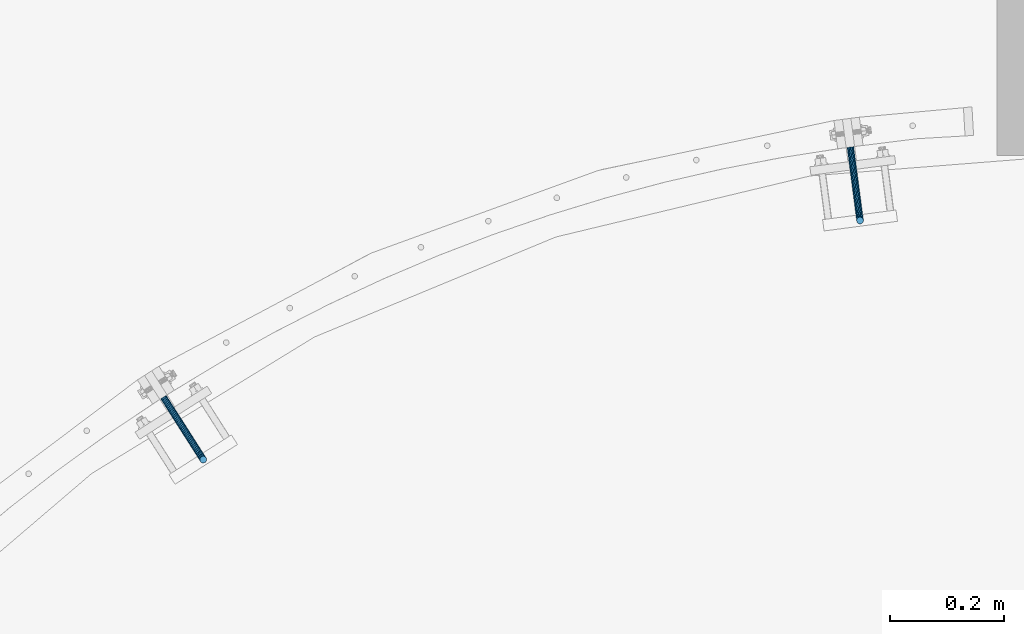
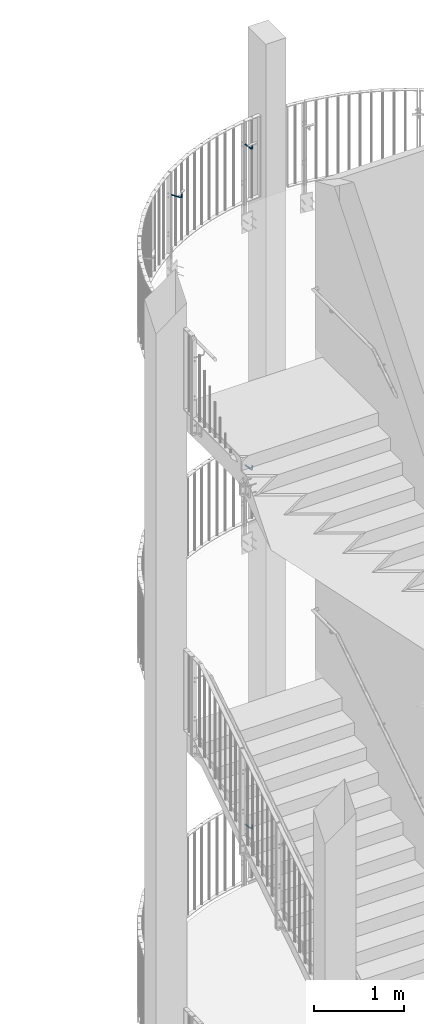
# One storey, part 141 of 296: 4 beams.
"""IFC2X3 building model written with IfcOpenShell, lengths in millimetres."""

from ifc_helpers import new_model, entity, si_unit, converted_unit, origin_with_axes, place, context, project, spatial, faceted_brep, material, element, save


model = new_model("IFC2X3")

# Units and contexts
model_context = context("Model", 3, precision=1e-09, world=origin_with_axes())
ifc_project = project(units=[si_unit("LENGTHUNIT", "METRE", prefix="MILLI"), si_unit("AREAUNIT", "SQUARE_METRE"), si_unit("VOLUMEUNIT", "CUBIC_METRE"), converted_unit("PLANEANGLEUNIT", "DEGREE", entity("IfcPlaneAngleMeasure", 0.01745329), si_unit("PLANEANGLEUNIT", "RADIAN"), dimensions=[0, 0, 0, 0, 0, 0, 0])], contexts=[model_context])

# Site, building, storey
site_placement = place(None, origin_with_axes())
site = spatial("IfcSite", under=ifc_project, at=site_placement, Name="TZD-S?d | Treppenhausgel?nder", CompositionType="ELEMENT")
building_placement = place(site_placement, origin_with_axes())
building = spatial("IfcBuilding", under=site, at=building_placement, Name="Struktur 1", CompositionType="ELEMENT")
storey_placement = place(building_placement, origin_with_axes())
storey = spatial("IfcBuildingStorey", under=building, at=storey_placement, Name="Default Storey", CompositionType="ELEMENT", Elevation=0.0)

# Beams
ifc_material = material(Name="S235JR")
beam_1_placement = place(None, origin_with_axes())
element("IfcBeam", 1, at=beam_1_placement, inside=storey, material=ifc_material, Name="-", ObjectType="-", context=model_context, shape_type="Brep", body=[
    faceted_brep([(2551.305676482, 2705.986061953, 8210.0), (2553.405330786, 2704.950627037, 8210.0), (2555.741402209, 2704.797512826, 8210.0), (2557.958245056, 2705.550029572, 8210.0), (2559.718365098, 2707.093613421, 8210.0), (2560.753800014, 2709.193267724, 8210.0), (2560.906914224, 2711.529339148, 8210.0), (2560.154397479, 2713.746181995, 8210.0), (2558.61081363, 2715.506302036, 8210.0), (2556.511159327, 2716.541736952, 8210.0), (2554.175087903, 2716.694851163, 8210.0), (2551.958245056, 2715.942334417, 8210.0), (2550.198125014, 2714.398750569, 8210.0), (2549.162690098, 2712.299096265, 8210.0), (2549.009575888, 2709.963024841, 8210.0), (2549.762092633, 2707.746181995, 8210.0), (2535.713382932, 2839.334312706, 8139.456722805), (2533.78349576, 2839.080238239, 8140.757359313), (2532.493986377, 2838.910471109, 8142.703899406), (2532.041170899, 2838.85085682, 8145.0), (2532.493986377, 2838.910471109, 8147.296100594), (2533.78349576, 2839.080238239, 8149.242640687), (2535.713382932, 2839.334312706, 8150.543277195), (2537.989840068, 2839.634013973, 8151.0), (2540.266297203, 2839.933715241, 8150.543277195), (2542.196184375, 2840.187789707, 8149.242640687), (2543.485693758, 2840.357556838, 8147.296100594), (2543.938509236, 2840.417171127, 8145.0), (2543.485693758, 2840.357556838, 8142.703899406), (2542.196184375, 2840.187789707, 8140.757359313), (2540.266297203, 2839.933715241, 8139.456722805), (2537.989840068, 2839.634013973, 8139.0), (2551.305676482, 2705.986061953, 8165.0), (2553.405330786, 2704.950627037, 8165.0), (2549.762092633, 2707.746181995, 8165.0), (2549.009575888, 2709.963024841, 8165.0), (2549.162690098, 2712.299096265, 8165.0), (2550.198125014, 2714.398750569, 8165.0), (2551.958245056, 2715.942334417, 8165.0), (2554.175087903, 2716.694851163, 8165.0), (2556.511159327, 2716.541736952, 8165.0), (2558.61081363, 2715.506302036, 8165.0), (2560.154397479, 2713.746181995, 8165.0), (2560.906914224, 2711.529339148, 8165.0), (2560.753800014, 2709.193267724, 8165.0), (2559.718365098, 2707.093613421, 8165.0), (2557.958245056, 2705.550029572, 8165.0), (2555.741402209, 2704.797512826, 8165.0), (2551.064808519, 2707.815635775, 8155.722743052), (2553.151540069, 2706.878358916, 8155.225011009), (2549.540564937, 2709.428851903, 8156.467651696), (2548.810861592, 2711.472409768, 8157.346331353), (2548.986789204, 2713.635196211, 8158.225011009), (2550.041564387, 2715.5879466, 8158.969919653), (2551.814607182, 2717.033372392, 8159.467651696), (2554.035987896, 2717.751420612, 8159.642431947), (2556.367521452, 2717.632774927, 8159.467651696), (2558.454253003, 2716.695498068, 8158.969919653), (2559.978496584, 2715.08228194, 8158.225011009), (2560.708199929, 2713.038724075, 8157.346331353), (2560.532272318, 2710.875937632, 8156.467651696), (2559.477497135, 2708.923187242, 8155.722743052), (2557.70445434, 2707.477761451, 8155.225011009), (2555.483073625, 2706.759713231, 8155.050230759), (2550.378874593, 2713.025821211, 8147.857864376), (2552.428805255, 2712.368074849, 8146.938175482), (2548.909707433, 2714.220690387, 8149.234276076), (2548.244971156, 2715.770774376, 8150.857864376), (2548.485865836, 2717.440086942, 8152.481452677), (2549.59571744, 2718.974490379, 8153.857864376), (2551.405561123, 2720.140385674, 8154.777553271), (2553.639864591, 2720.760275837, 8155.100505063), (2555.958475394, 2720.739788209, 8154.777553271), (2558.008406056, 2720.082041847, 8153.857864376), (2559.477573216, 2718.887172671, 8152.481452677), (2560.142309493, 2717.337088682, 8150.857864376), (2559.901414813, 2715.667776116, 8149.234276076), (2558.791563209, 2714.133372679, 8147.857864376), (2556.981719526, 2712.967477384, 8146.938175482), (2554.747416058, 2712.347587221, 8146.615223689), (2549.352301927, 2720.82341476, 8142.602720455), (2551.347156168, 2720.58401535, 8141.401089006), (2547.965562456, 2721.392183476, 8144.401089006), (2547.398056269, 2722.203731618, 8146.52240935), (2547.736181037, 2723.134508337, 8148.643729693), (2548.92846033, 2724.042811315, 8150.442098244), (2550.793380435, 2724.790359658, 8151.643729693), (2553.047024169, 2725.263345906, 8152.065686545), (2555.346294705, 2725.389762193, 8151.643729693), (2557.341148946, 2725.150362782, 8150.442098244), (2558.727888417, 2724.581594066, 8148.643729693), (2559.295394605, 2723.770045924, 8146.52240935), (2558.957269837, 2722.839269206, 8144.401089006), (2557.764990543, 2721.930966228, 8142.602720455), (2555.900070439, 2721.183417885, 8141.401089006), (2553.646426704, 2720.710431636, 8140.979132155), (2548.141376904, 2730.021303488, 8140.757359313), (2550.071264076, 2730.275377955, 8139.456722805), (2546.851867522, 2729.851536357, 8142.703899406), (2546.399052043, 2729.791922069, 8145.0), (2546.851867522, 2729.851536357, 8147.296100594), (2548.141376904, 2730.021303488, 8149.242640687), (2550.071264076, 2730.275377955, 8150.543277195), (2552.347721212, 2730.575079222, 8151.0), (2554.624178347, 2730.87478049, 8150.543277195), (2556.55406552, 2731.128854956, 8149.242640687), (2557.843574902, 2731.298622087, 8147.296100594), (2558.29639038, 2731.358236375, 8145.0), (2557.843574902, 2731.298622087, 8142.703899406), (2556.55406552, 2731.128854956, 8140.757359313), (2554.624178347, 2730.87478049, 8139.456722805), (2552.347721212, 2730.575079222, 8139.0)], [[[0, 1, 2, 3, 4, 5, 6, 7, 8, 9, 10, 11, 12, 13, 14, 15]], [[16, 17, 18, 19, 20, 21, 22, 23, 24, 25, 26, 27, 28, 29, 30, 31]], [[1, 0, 32, 33]], [[0, 15, 34, 32]], [[15, 14, 35, 34]], [[14, 13, 36, 35]], [[13, 12, 37, 36]], [[12, 11, 38, 37]], [[11, 10, 39, 38]], [[10, 9, 40, 39]], [[9, 8, 41, 40]], [[8, 7, 42, 41]], [[7, 6, 43, 42]], [[6, 5, 44, 43]], [[5, 4, 45, 44]], [[4, 3, 46, 45]], [[3, 2, 47, 46]], [[2, 1, 33, 47]], [[33, 32, 48, 49]], [[32, 34, 50, 48]], [[34, 35, 51, 50]], [[35, 36, 52, 51]], [[36, 37, 53, 52]], [[37, 38, 54, 53]], [[38, 39, 55, 54]], [[39, 40, 56, 55]], [[40, 41, 57, 56]], [[41, 42, 58, 57]], [[42, 43, 59, 58]], [[43, 44, 60, 59]], [[44, 45, 61, 60]], [[45, 46, 62, 61]], [[46, 47, 63, 62]], [[47, 33, 49, 63]], [[49, 48, 64, 65]], [[48, 50, 66, 64]], [[50, 51, 67, 66]], [[51, 52, 68, 67]], [[52, 53, 69, 68]], [[53, 54, 70, 69]], [[54, 55, 71, 70]], [[55, 56, 72, 71]], [[56, 57, 73, 72]], [[57, 58, 74, 73]], [[58, 59, 75, 74]], [[59, 60, 76, 75]], [[60, 61, 77, 76]], [[61, 62, 78, 77]], [[62, 63, 79, 78]], [[63, 49, 65, 79]], [[65, 64, 80, 81]], [[64, 66, 82, 80]], [[66, 67, 83, 82]], [[67, 68, 84, 83]], [[68, 69, 85, 84]], [[69, 70, 86, 85]], [[70, 71, 87, 86]], [[71, 72, 88, 87]], [[72, 73, 89, 88]], [[73, 74, 90, 89]], [[74, 75, 91, 90]], [[75, 76, 92, 91]], [[76, 77, 93, 92]], [[77, 78, 94, 93]], [[78, 79, 95, 94]], [[79, 65, 81, 95]], [[81, 80, 96, 97]], [[80, 82, 98, 96]], [[82, 83, 99, 98]], [[83, 84, 100, 99]], [[84, 85, 101, 100]], [[85, 86, 102, 101]], [[86, 87, 103, 102]], [[87, 88, 104, 103]], [[88, 89, 105, 104]], [[89, 90, 106, 105]], [[90, 91, 107, 106]], [[91, 92, 108, 107]], [[92, 93, 109, 108]], [[93, 94, 110, 109]], [[94, 95, 111, 110]], [[95, 81, 97, 111]], [[97, 96, 17, 16]], [[96, 98, 18, 17]], [[98, 99, 19, 18]], [[99, 100, 20, 19]], [[100, 101, 21, 20]], [[101, 102, 22, 21]], [[102, 103, 23, 22]], [[103, 104, 24, 23]], [[104, 105, 25, 24]], [[105, 106, 26, 25]], [[106, 107, 27, 26]], [[107, 108, 28, 27]], [[108, 109, 29, 28]], [[109, 110, 30, 29]], [[110, 111, 31, 30]], [[111, 97, 16, 31]]]),
])
beam_2_placement = place(None, origin_with_axes())
element("IfcBeam", 2, at=beam_2_placement, inside=storey, material=ifc_material, Name="-", ObjectType="-", context=model_context, shape_type="Brep", body=[
    faceted_brep([(2551.305676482, 2705.986061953, 3310.0), (2553.405330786, 2704.950627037, 3310.0), (2555.741402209, 2704.797512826, 3310.0), (2557.958245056, 2705.550029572, 3310.0), (2559.718365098, 2707.093613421, 3310.0), (2560.753800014, 2709.193267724, 3310.0), (2560.906914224, 2711.529339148, 3310.0), (2560.154397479, 2713.746181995, 3310.0), (2558.61081363, 2715.506302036, 3310.0), (2556.511159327, 2716.541736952, 3310.0), (2554.175087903, 2716.694851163, 3310.0), (2551.958245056, 2715.942334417, 3310.0), (2550.198125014, 2714.398750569, 3310.0), (2549.162690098, 2712.299096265, 3310.0), (2549.009575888, 2709.963024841, 3310.0), (2549.762092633, 2707.746181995, 3310.0), (2535.713382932, 2839.334312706, 3239.456722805), (2533.78349576, 2839.080238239, 3240.757359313), (2532.493986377, 2838.910471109, 3242.703899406), (2532.041170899, 2838.85085682, 3245.0), (2532.493986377, 2838.910471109, 3247.296100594), (2533.78349576, 2839.080238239, 3249.242640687), (2535.713382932, 2839.334312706, 3250.543277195), (2537.989840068, 2839.634013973, 3251.0), (2540.266297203, 2839.933715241, 3250.543277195), (2542.196184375, 2840.187789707, 3249.242640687), (2543.485693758, 2840.357556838, 3247.296100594), (2543.938509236, 2840.417171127, 3245.0), (2543.485693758, 2840.357556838, 3242.703899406), (2542.196184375, 2840.187789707, 3240.757359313), (2540.266297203, 2839.933715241, 3239.456722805), (2537.989840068, 2839.634013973, 3239.0), (2551.305676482, 2705.986061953, 3265.0), (2553.405330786, 2704.950627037, 3265.0), (2549.762092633, 2707.746181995, 3265.0), (2549.009575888, 2709.963024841, 3265.0), (2549.162690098, 2712.299096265, 3265.0), (2550.198125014, 2714.398750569, 3265.0), (2551.958245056, 2715.942334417, 3265.0), (2554.175087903, 2716.694851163, 3265.0), (2556.511159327, 2716.541736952, 3265.0), (2558.61081363, 2715.506302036, 3265.0), (2560.154397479, 2713.746181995, 3265.0), (2560.906914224, 2711.529339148, 3265.0), (2560.753800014, 2709.193267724, 3265.0), (2559.718365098, 2707.093613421, 3265.0), (2557.958245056, 2705.550029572, 3265.0), (2555.741402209, 2704.797512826, 3265.0), (2551.064808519, 2707.815635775, 3255.722743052), (2553.151540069, 2706.878358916, 3255.225011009), (2549.540564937, 2709.428851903, 3256.467651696), (2548.810861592, 2711.472409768, 3257.346331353), (2548.986789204, 2713.635196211, 3258.225011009), (2550.041564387, 2715.5879466, 3258.969919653), (2551.814607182, 2717.033372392, 3259.467651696), (2554.035987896, 2717.751420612, 3259.642431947), (2556.367521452, 2717.632774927, 3259.467651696), (2558.454253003, 2716.695498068, 3258.969919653), (2559.978496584, 2715.08228194, 3258.225011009), (2560.708199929, 2713.038724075, 3257.346331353), (2560.532272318, 2710.875937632, 3256.467651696), (2559.477497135, 2708.923187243, 3255.722743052), (2557.70445434, 2707.477761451, 3255.225011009), (2555.483073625, 2706.759713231, 3255.050230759), (2550.378874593, 2713.025821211, 3247.857864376), (2552.428805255, 2712.368074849, 3246.938175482), (2548.909707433, 2714.220690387, 3249.234276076), (2548.244971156, 2715.770774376, 3250.857864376), (2548.485865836, 2717.440086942, 3252.481452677), (2549.59571744, 2718.974490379, 3253.857864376), (2551.405561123, 2720.140385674, 3254.777553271), (2553.639864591, 2720.760275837, 3255.100505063), (2555.958475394, 2720.739788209, 3254.777553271), (2558.008406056, 2720.082041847, 3253.857864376), (2559.477573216, 2718.887172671, 3252.481452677), (2560.142309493, 2717.337088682, 3250.857864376), (2559.901414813, 2715.667776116, 3249.234276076), (2558.791563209, 2714.133372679, 3247.857864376), (2556.981719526, 2712.967477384, 3246.938175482), (2554.747416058, 2712.347587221, 3246.615223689), (2549.352301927, 2720.82341476, 3242.602720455), (2551.347156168, 2720.58401535, 3241.401089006), (2547.965562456, 2721.392183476, 3244.401089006), (2547.398056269, 2722.203731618, 3246.52240935), (2547.736181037, 2723.134508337, 3248.643729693), (2548.92846033, 2724.042811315, 3250.442098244), (2550.793380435, 2724.790359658, 3251.643729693), (2553.047024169, 2725.263345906, 3252.065686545), (2555.346294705, 2725.389762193, 3251.643729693), (2557.341148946, 2725.150362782, 3250.442098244), (2558.727888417, 2724.581594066, 3248.643729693), (2559.295394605, 2723.770045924, 3246.52240935), (2558.957269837, 2722.839269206, 3244.401089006), (2557.764990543, 2721.930966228, 3242.602720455), (2555.900070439, 2721.183417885, 3241.401089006), (2553.646426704, 2720.710431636, 3240.979132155), (2548.141376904, 2730.021303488, 3240.757359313), (2550.071264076, 2730.275377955, 3239.456722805), (2546.851867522, 2729.851536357, 3242.703899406), (2546.399052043, 2729.791922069, 3245.0), (2546.851867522, 2729.851536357, 3247.296100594), (2548.141376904, 2730.021303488, 3249.242640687), (2550.071264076, 2730.275377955, 3250.543277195), (2552.347721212, 2730.575079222, 3251.0), (2554.624178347, 2730.87478049, 3250.543277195), (2556.55406552, 2731.128854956, 3249.242640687), (2557.843574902, 2731.298622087, 3247.296100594), (2558.29639038, 2731.358236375, 3245.0), (2557.843574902, 2731.298622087, 3242.703899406), (2556.55406552, 2731.128854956, 3240.757359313), (2554.624178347, 2730.87478049, 3239.456722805), (2552.347721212, 2730.575079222, 3239.0)], [[[0, 1, 2, 3, 4, 5, 6, 7, 8, 9, 10, 11, 12, 13, 14, 15]], [[16, 17, 18, 19, 20, 21, 22, 23, 24, 25, 26, 27, 28, 29, 30, 31]], [[1, 0, 32, 33]], [[0, 15, 34, 32]], [[15, 14, 35, 34]], [[14, 13, 36, 35]], [[13, 12, 37, 36]], [[12, 11, 38, 37]], [[11, 10, 39, 38]], [[10, 9, 40, 39]], [[9, 8, 41, 40]], [[8, 7, 42, 41]], [[7, 6, 43, 42]], [[6, 5, 44, 43]], [[5, 4, 45, 44]], [[4, 3, 46, 45]], [[3, 2, 47, 46]], [[2, 1, 33, 47]], [[33, 32, 48, 49]], [[32, 34, 50, 48]], [[34, 35, 51, 50]], [[35, 36, 52, 51]], [[36, 37, 53, 52]], [[37, 38, 54, 53]], [[38, 39, 55, 54]], [[39, 40, 56, 55]], [[40, 41, 57, 56]], [[41, 42, 58, 57]], [[42, 43, 59, 58]], [[43, 44, 60, 59]], [[44, 45, 61, 60]], [[45, 46, 62, 61]], [[46, 47, 63, 62]], [[47, 33, 49, 63]], [[49, 48, 64, 65]], [[48, 50, 66, 64]], [[50, 51, 67, 66]], [[51, 52, 68, 67]], [[52, 53, 69, 68]], [[53, 54, 70, 69]], [[54, 55, 71, 70]], [[55, 56, 72, 71]], [[56, 57, 73, 72]], [[57, 58, 74, 73]], [[58, 59, 75, 74]], [[59, 60, 76, 75]], [[60, 61, 77, 76]], [[61, 62, 78, 77]], [[62, 63, 79, 78]], [[63, 49, 65, 79]], [[65, 64, 80, 81]], [[64, 66, 82, 80]], [[66, 67, 83, 82]], [[67, 68, 84, 83]], [[68, 69, 85, 84]], [[69, 70, 86, 85]], [[70, 71, 87, 86]], [[71, 72, 88, 87]], [[72, 73, 89, 88]], [[73, 74, 90, 89]], [[74, 75, 91, 90]], [[75, 76, 92, 91]], [[76, 77, 93, 92]], [[77, 78, 94, 93]], [[78, 79, 95, 94]], [[79, 65, 81, 95]], [[81, 80, 96, 97]], [[80, 82, 98, 96]], [[82, 83, 99, 98]], [[83, 84, 100, 99]], [[84, 85, 101, 100]], [[85, 86, 102, 101]], [[86, 87, 103, 102]], [[87, 88, 104, 103]], [[88, 89, 105, 104]], [[89, 90, 106, 105]], [[90, 91, 107, 106]], [[91, 92, 108, 107]], [[92, 93, 109, 108]], [[93, 94, 110, 109]], [[94, 95, 111, 110]], [[95, 81, 97, 111]], [[97, 96, 17, 16]], [[96, 98, 18, 17]], [[98, 99, 19, 18]], [[99, 100, 20, 19]], [[100, 101, 21, 20]], [[101, 102, 22, 21]], [[102, 103, 23, 22]], [[103, 104, 24, 23]], [[104, 105, 25, 24]], [[105, 106, 26, 25]], [[106, 107, 27, 26]], [[107, 108, 28, 27]], [[108, 109, 29, 28]], [[109, 110, 30, 29]], [[110, 111, 31, 30]], [[111, 97, 16, 31]]]),
])
beam_3_placement = place(None, origin_with_axes())
element("IfcBeam", 3, at=beam_3_placement, inside=storey, material=ifc_material, Name="-", ObjectType="-", context=model_context, shape_type="Brep", body=[
    faceted_brep([(1400.456972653, 2285.156972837, 12585.0), (1402.797499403, 2285.105902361, 12585.0), (1404.979407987, 2285.954400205, 12585.0), (1406.670522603, 2287.573290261, 12585.0), (1407.613386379, 2289.716111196, 12585.0), (1407.664456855, 2292.056637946, 12585.0), (1406.815959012, 2294.23854653, 12585.0), (1405.197068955, 2295.929661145, 12585.0), (1403.05424802, 2296.872524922, 12585.0), (1400.713721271, 2296.923595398, 12585.0), (1398.531812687, 2296.075097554, 12585.0), (1396.840698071, 2294.456207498, 12585.0), (1395.897834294, 2292.313386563, 12585.0), (1395.846763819, 2289.972859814, 12585.0), (1396.695261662, 2287.790951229, 12585.0), (1398.314151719, 2286.099836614, 12585.0), (1329.970149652, 2399.421942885, 12514.456722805), (1328.328454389, 2398.376067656, 12515.757359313), (1327.231508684, 2397.677236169, 12517.703899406), (1326.846312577, 2397.431839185, 12520.0), (1327.231508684, 2397.677236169, 12522.296100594), (1328.328454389, 2398.376067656, 12524.242640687), (1329.970149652, 2399.421942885, 12525.543277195), (1331.906661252, 2400.655636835, 12526.0), (1333.843172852, 2401.889330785, 12525.543277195), (1335.484868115, 2402.935206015, 12524.242640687), (1336.58181382, 2403.634037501, 12522.296100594), (1336.967009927, 2403.879434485, 12520.0), (1336.58181382, 2403.634037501, 12517.703899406), (1335.484868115, 2402.935206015, 12515.757359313), (1333.843172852, 2401.889330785, 12514.456722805), (1331.906661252, 2400.655636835, 12514.0), (1400.456972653, 2285.156972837, 12540.0), (1402.797499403, 2285.105902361, 12540.0), (1398.314151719, 2286.099836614, 12540.0), (1396.695261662, 2287.790951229, 12540.0), (1395.846763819, 2289.972859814, 12540.0), (1395.897834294, 2292.313386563, 12540.0), (1396.840698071, 2294.456207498, 12540.0), (1398.531812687, 2296.075097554, 12540.0), (1400.713721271, 2296.923595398, 12540.0), (1403.05424802, 2296.872524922, 12540.0), (1405.197068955, 2295.929661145, 12540.0), (1406.815959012, 2294.23854653, 12540.0), (1407.664456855, 2292.056637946, 12540.0), (1407.613386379, 2289.716111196, 12540.0), (1406.670522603, 2287.573290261, 12540.0), (1404.979407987, 2285.954400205, 12540.0), (1399.465460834, 2286.713334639, 12530.722743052), (1401.752792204, 2286.745764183, 12530.225011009), (1397.402252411, 2287.531231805, 12531.467651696), (1395.877271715, 2289.074938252, 12532.346331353), (1395.122683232, 2291.109438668, 12533.225011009), (1395.253366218, 2293.324998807, 12533.969919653), (1396.249425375, 2295.384319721, 12534.467651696), (1397.959219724, 2296.97388847, 12534.642431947), (1400.122448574, 2297.851707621, 12534.467651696), (1402.409779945, 2297.884137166, 12533.969919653), (1404.472988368, 2297.06624, 12533.225011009), (1405.997969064, 2295.522533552, 12532.346331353), (1406.752557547, 2293.488033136, 12531.467651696), (1406.62187456, 2291.272472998, 12530.722743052), (1405.625815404, 2289.213152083, 12530.225011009), (1403.916021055, 2287.623583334, 12530.050230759), (1396.641874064, 2291.145478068, 12522.857864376), (1398.77771781, 2291.415695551, 12521.938175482), (1394.805382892, 2291.607500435, 12524.234276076), (1393.547833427, 2292.731423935, 12525.857864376), (1393.060676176, 2294.346141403, 12527.481452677), (1393.418076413, 2296.205826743, 12528.857864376), (1394.565623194, 2298.027359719, 12529.777553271), (1396.328612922, 2299.533428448, 12530.100505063), (1398.438646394, 2300.494747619, 12529.777553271), (1400.57449014, 2300.764965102, 12528.857864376), (1402.410981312, 2300.302942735, 12527.481452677), (1403.668530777, 2299.179019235, 12525.857864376), (1404.155688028, 2297.564301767, 12524.234276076), (1403.79828779, 2295.704616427, 12522.857864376), (1402.650741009, 2293.883083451, 12521.938175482), (1400.887751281, 2292.377014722, 12521.615223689), (1392.416077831, 2297.778649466, 12517.602720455), (1394.325204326, 2298.404741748, 12516.401089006), (1390.918893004, 2297.708067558, 12519.401089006), (1390.061582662, 2298.203741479, 12521.52240935), (1389.974664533, 2299.19020937, 12523.643729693), (1390.671371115, 2300.517290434, 12525.442098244), (1392.045635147, 2301.982948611, 12526.643729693), (1393.888237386, 2303.364050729, 12527.065686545), (1395.918658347, 2304.450336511, 12526.643729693), (1397.827784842, 2305.076428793, 12525.442098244), (1399.324969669, 2305.147010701, 12523.643729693), (1400.182280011, 2304.65133678, 12521.52240935), (1400.26919814, 2303.66486889, 12519.401089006), (1399.572491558, 2302.337787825, 12517.602720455), (1398.198227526, 2300.872129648, 12516.401089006), (1396.355625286, 2299.49102753, 12515.979132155), (1387.431411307, 2305.603008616, 12515.757359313), (1389.07310657, 2306.648883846, 12514.456722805), (1386.334465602, 2304.90417713, 12517.703899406), (1385.949269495, 2304.658780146, 12520.0), (1386.334465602, 2304.90417713, 12522.296100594), (1387.431411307, 2305.603008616, 12524.242640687), (1389.07310657, 2306.648883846, 12525.543277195), (1391.00961817, 2307.882577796, 12526.0), (1392.94612977, 2309.116271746, 12525.543277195), (1394.587825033, 2310.162146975, 12524.242640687), (1395.684770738, 2310.860978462, 12522.296100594), (1396.069966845, 2311.106375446, 12520.0), (1395.684770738, 2310.860978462, 12517.703899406), (1394.587825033, 2310.162146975, 12515.757359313), (1392.94612977, 2309.116271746, 12514.456722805), (1391.00961817, 2307.882577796, 12514.0)], [[[0, 1, 2, 3, 4, 5, 6, 7, 8, 9, 10, 11, 12, 13, 14, 15]], [[16, 17, 18, 19, 20, 21, 22, 23, 24, 25, 26, 27, 28, 29, 30, 31]], [[1, 0, 32, 33]], [[0, 15, 34, 32]], [[15, 14, 35, 34]], [[14, 13, 36, 35]], [[13, 12, 37, 36]], [[12, 11, 38, 37]], [[11, 10, 39, 38]], [[10, 9, 40, 39]], [[9, 8, 41, 40]], [[8, 7, 42, 41]], [[7, 6, 43, 42]], [[6, 5, 44, 43]], [[5, 4, 45, 44]], [[4, 3, 46, 45]], [[3, 2, 47, 46]], [[2, 1, 33, 47]], [[33, 32, 48, 49]], [[32, 34, 50, 48]], [[34, 35, 51, 50]], [[35, 36, 52, 51]], [[36, 37, 53, 52]], [[37, 38, 54, 53]], [[38, 39, 55, 54]], [[39, 40, 56, 55]], [[40, 41, 57, 56]], [[41, 42, 58, 57]], [[42, 43, 59, 58]], [[43, 44, 60, 59]], [[44, 45, 61, 60]], [[45, 46, 62, 61]], [[46, 47, 63, 62]], [[47, 33, 49, 63]], [[49, 48, 64, 65]], [[48, 50, 66, 64]], [[50, 51, 67, 66]], [[51, 52, 68, 67]], [[52, 53, 69, 68]], [[53, 54, 70, 69]], [[54, 55, 71, 70]], [[55, 56, 72, 71]], [[56, 57, 73, 72]], [[57, 58, 74, 73]], [[58, 59, 75, 74]], [[59, 60, 76, 75]], [[60, 61, 77, 76]], [[61, 62, 78, 77]], [[62, 63, 79, 78]], [[63, 49, 65, 79]], [[65, 64, 80, 81]], [[64, 66, 82, 80]], [[66, 67, 83, 82]], [[67, 68, 84, 83]], [[68, 69, 85, 84]], [[69, 70, 86, 85]], [[70, 71, 87, 86]], [[71, 72, 88, 87]], [[72, 73, 89, 88]], [[73, 74, 90, 89]], [[74, 75, 91, 90]], [[75, 76, 92, 91]], [[76, 77, 93, 92]], [[77, 78, 94, 93]], [[78, 79, 95, 94]], [[79, 65, 81, 95]], [[81, 80, 96, 97]], [[80, 82, 98, 96]], [[82, 83, 99, 98]], [[83, 84, 100, 99]], [[84, 85, 101, 100]], [[85, 86, 102, 101]], [[86, 87, 103, 102]], [[87, 88, 104, 103]], [[88, 89, 105, 104]], [[89, 90, 106, 105]], [[90, 91, 107, 106]], [[91, 92, 108, 107]], [[92, 93, 109, 108]], [[93, 94, 110, 109]], [[94, 95, 111, 110]], [[95, 81, 97, 111]], [[97, 96, 17, 16]], [[96, 98, 18, 17]], [[98, 99, 19, 18]], [[99, 100, 20, 19]], [[100, 101, 21, 20]], [[101, 102, 22, 21]], [[102, 103, 23, 22]], [[103, 104, 24, 23]], [[104, 105, 25, 24]], [[105, 106, 26, 25]], [[106, 107, 27, 26]], [[107, 108, 28, 27]], [[108, 109, 29, 28]], [[109, 110, 30, 29]], [[110, 111, 31, 30]], [[111, 97, 16, 31]]]),
])
beam_4_placement = place(None, origin_with_axes())
element("IfcBeam", 4, at=beam_4_placement, inside=storey, material=ifc_material, Name="-", ObjectType="-", context=model_context, shape_type="Brep", body=[
    faceted_brep([(2551.305676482, 2705.986061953, 12585.0), (2553.405330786, 2704.950627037, 12585.0), (2555.741402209, 2704.797512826, 12585.0), (2557.958245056, 2705.550029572, 12585.0), (2559.718365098, 2707.093613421, 12585.0), (2560.753800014, 2709.193267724, 12585.0), (2560.906914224, 2711.529339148, 12585.0), (2560.154397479, 2713.746181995, 12585.0), (2558.61081363, 2715.506302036, 12585.0), (2556.511159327, 2716.541736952, 12585.0), (2554.175087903, 2716.694851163, 12585.0), (2551.958245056, 2715.942334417, 12585.0), (2550.198125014, 2714.398750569, 12585.0), (2549.162690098, 2712.299096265, 12585.0), (2549.009575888, 2709.963024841, 12585.0), (2549.762092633, 2707.746181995, 12585.0), (2535.713382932, 2839.334312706, 12514.456722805), (2533.78349576, 2839.080238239, 12515.757359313), (2532.493986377, 2838.910471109, 12517.703899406), (2532.041170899, 2838.85085682, 12520.0), (2532.493986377, 2838.910471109, 12522.296100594), (2533.78349576, 2839.080238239, 12524.242640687), (2535.713382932, 2839.334312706, 12525.543277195), (2537.989840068, 2839.634013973, 12526.0), (2540.266297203, 2839.933715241, 12525.543277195), (2542.196184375, 2840.187789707, 12524.242640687), (2543.485693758, 2840.357556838, 12522.296100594), (2543.938509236, 2840.417171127, 12520.0), (2543.485693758, 2840.357556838, 12517.703899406), (2542.196184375, 2840.187789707, 12515.757359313), (2540.266297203, 2839.933715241, 12514.456722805), (2537.989840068, 2839.634013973, 12514.0), (2551.305676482, 2705.986061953, 12540.0), (2553.405330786, 2704.950627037, 12540.0), (2549.762092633, 2707.746181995, 12540.0), (2549.009575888, 2709.963024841, 12540.0), (2549.162690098, 2712.299096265, 12540.0), (2550.198125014, 2714.398750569, 12540.0), (2551.958245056, 2715.942334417, 12540.0), (2554.175087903, 2716.694851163, 12540.0), (2556.511159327, 2716.541736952, 12540.0), (2558.61081363, 2715.506302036, 12540.0), (2560.154397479, 2713.746181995, 12540.0), (2560.906914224, 2711.529339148, 12540.0), (2560.753800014, 2709.193267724, 12540.0), (2559.718365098, 2707.093613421, 12540.0), (2557.958245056, 2705.550029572, 12540.0), (2555.741402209, 2704.797512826, 12540.0), (2551.064808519, 2707.815635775, 12530.722743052), (2553.151540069, 2706.878358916, 12530.225011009), (2549.540564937, 2709.428851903, 12531.467651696), (2548.810861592, 2711.472409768, 12532.346331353), (2548.986789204, 2713.635196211, 12533.225011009), (2550.041564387, 2715.5879466, 12533.969919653), (2551.814607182, 2717.033372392, 12534.467651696), (2554.035987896, 2717.751420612, 12534.642431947), (2556.367521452, 2717.632774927, 12534.467651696), (2558.454253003, 2716.695498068, 12533.969919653), (2559.978496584, 2715.08228194, 12533.225011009), (2560.708199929, 2713.038724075, 12532.346331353), (2560.532272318, 2710.875937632, 12531.467651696), (2559.477497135, 2708.923187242, 12530.722743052), (2557.70445434, 2707.477761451, 12530.225011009), (2555.483073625, 2706.759713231, 12530.050230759), (2550.378874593, 2713.025821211, 12522.857864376), (2552.428805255, 2712.368074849, 12521.938175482), (2548.909707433, 2714.220690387, 12524.234276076), (2548.244971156, 2715.770774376, 12525.857864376), (2548.485865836, 2717.440086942, 12527.481452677), (2549.59571744, 2718.974490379, 12528.857864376), (2551.405561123, 2720.140385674, 12529.777553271), (2553.639864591, 2720.760275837, 12530.100505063), (2555.958475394, 2720.739788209, 12529.777553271), (2558.008406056, 2720.082041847, 12528.857864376), (2559.477573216, 2718.887172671, 12527.481452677), (2560.142309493, 2717.337088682, 12525.857864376), (2559.901414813, 2715.667776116, 12524.234276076), (2558.791563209, 2714.133372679, 12522.857864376), (2556.981719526, 2712.967477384, 12521.938175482), (2554.747416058, 2712.347587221, 12521.615223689), (2549.352301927, 2720.82341476, 12517.602720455), (2551.347156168, 2720.58401535, 12516.401089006), (2547.965562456, 2721.392183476, 12519.401089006), (2547.398056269, 2722.203731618, 12521.52240935), (2547.736181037, 2723.134508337, 12523.643729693), (2548.92846033, 2724.042811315, 12525.442098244), (2550.793380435, 2724.790359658, 12526.643729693), (2553.047024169, 2725.263345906, 12527.065686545), (2555.346294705, 2725.389762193, 12526.643729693), (2557.341148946, 2725.150362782, 12525.442098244), (2558.727888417, 2724.581594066, 12523.643729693), (2559.295394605, 2723.770045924, 12521.52240935), (2558.957269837, 2722.839269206, 12519.401089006), (2557.764990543, 2721.930966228, 12517.602720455), (2555.900070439, 2721.183417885, 12516.401089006), (2553.646426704, 2720.710431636, 12515.979132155), (2548.141376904, 2730.021303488, 12515.757359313), (2550.071264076, 2730.275377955, 12514.456722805), (2546.851867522, 2729.851536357, 12517.703899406), (2546.399052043, 2729.791922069, 12520.0), (2546.851867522, 2729.851536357, 12522.296100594), (2548.141376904, 2730.021303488, 12524.242640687), (2550.071264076, 2730.275377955, 12525.543277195), (2552.347721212, 2730.575079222, 12526.0), (2554.624178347, 2730.87478049, 12525.543277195), (2556.55406552, 2731.128854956, 12524.242640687), (2557.843574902, 2731.298622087, 12522.296100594), (2558.29639038, 2731.358236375, 12520.0), (2557.843574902, 2731.298622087, 12517.703899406), (2556.55406552, 2731.128854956, 12515.757359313), (2554.624178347, 2730.87478049, 12514.456722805), (2552.347721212, 2730.575079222, 12514.0)], [[[0, 1, 2, 3, 4, 5, 6, 7, 8, 9, 10, 11, 12, 13, 14, 15]], [[16, 17, 18, 19, 20, 21, 22, 23, 24, 25, 26, 27, 28, 29, 30, 31]], [[1, 0, 32, 33]], [[0, 15, 34, 32]], [[15, 14, 35, 34]], [[14, 13, 36, 35]], [[13, 12, 37, 36]], [[12, 11, 38, 37]], [[11, 10, 39, 38]], [[10, 9, 40, 39]], [[9, 8, 41, 40]], [[8, 7, 42, 41]], [[7, 6, 43, 42]], [[6, 5, 44, 43]], [[5, 4, 45, 44]], [[4, 3, 46, 45]], [[3, 2, 47, 46]], [[2, 1, 33, 47]], [[33, 32, 48, 49]], [[32, 34, 50, 48]], [[34, 35, 51, 50]], [[35, 36, 52, 51]], [[36, 37, 53, 52]], [[37, 38, 54, 53]], [[38, 39, 55, 54]], [[39, 40, 56, 55]], [[40, 41, 57, 56]], [[41, 42, 58, 57]], [[42, 43, 59, 58]], [[43, 44, 60, 59]], [[44, 45, 61, 60]], [[45, 46, 62, 61]], [[46, 47, 63, 62]], [[47, 33, 49, 63]], [[49, 48, 64, 65]], [[48, 50, 66, 64]], [[50, 51, 67, 66]], [[51, 52, 68, 67]], [[52, 53, 69, 68]], [[53, 54, 70, 69]], [[54, 55, 71, 70]], [[55, 56, 72, 71]], [[56, 57, 73, 72]], [[57, 58, 74, 73]], [[58, 59, 75, 74]], [[59, 60, 76, 75]], [[60, 61, 77, 76]], [[61, 62, 78, 77]], [[62, 63, 79, 78]], [[63, 49, 65, 79]], [[65, 64, 80, 81]], [[64, 66, 82, 80]], [[66, 67, 83, 82]], [[67, 68, 84, 83]], [[68, 69, 85, 84]], [[69, 70, 86, 85]], [[70, 71, 87, 86]], [[71, 72, 88, 87]], [[72, 73, 89, 88]], [[73, 74, 90, 89]], [[74, 75, 91, 90]], [[75, 76, 92, 91]], [[76, 77, 93, 92]], [[77, 78, 94, 93]], [[78, 79, 95, 94]], [[79, 65, 81, 95]], [[81, 80, 96, 97]], [[80, 82, 98, 96]], [[82, 83, 99, 98]], [[83, 84, 100, 99]], [[84, 85, 101, 100]], [[85, 86, 102, 101]], [[86, 87, 103, 102]], [[87, 88, 104, 103]], [[88, 89, 105, 104]], [[89, 90, 106, 105]], [[90, 91, 107, 106]], [[91, 92, 108, 107]], [[92, 93, 109, 108]], [[93, 94, 110, 109]], [[94, 95, 111, 110]], [[95, 81, 97, 111]], [[97, 96, 17, 16]], [[96, 98, 18, 17]], [[98, 99, 19, 18]], [[99, 100, 20, 19]], [[100, 101, 21, 20]], [[101, 102, 22, 21]], [[102, 103, 23, 22]], [[103, 104, 24, 23]], [[104, 105, 25, 24]], [[105, 106, 26, 25]], [[106, 107, 27, 26]], [[107, 108, 28, 27]], [[108, 109, 29, 28]], [[109, 110, 30, 29]], [[110, 111, 31, 30]], [[111, 97, 16, 31]]]),
])

save(model, "model.ifc")
